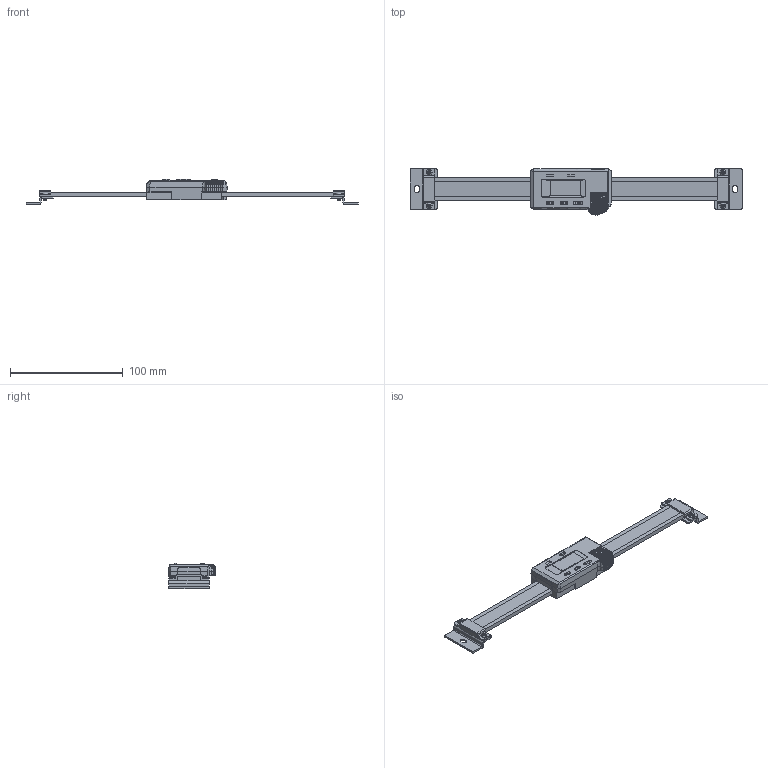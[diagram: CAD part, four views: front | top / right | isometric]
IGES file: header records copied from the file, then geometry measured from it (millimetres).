
Start section: Elysium IGES Interface
Global section: file name: 146HK:\20_商品設計\商品群\測器\41_製品情報\00_製品寸法図\3Dデータ提供\SD全機種_3Dデータ\SD-3Dデータ_20200106_不具合対応_訂正データ\SD-E_pkg\SD-15E.igs; native system: Creo Elements/Direct Modeling 18.1I  13-Aug-2016; preprocessor: Creo Element/Direct IGES_3D V2.2; author: Unknown; organization: Unknown; date: 20200210.112108; units: millimetre
Bounding box: 294 x 41.36 x 22.62 mm (x, y, z)
Volume: 45733.3 mm3; surface area: 34832.4 mm2
Topology: 4 solids, 4 shells, 831 faces, 2172 edges, 1375 vertices
Faces by surface type: bspline 831
